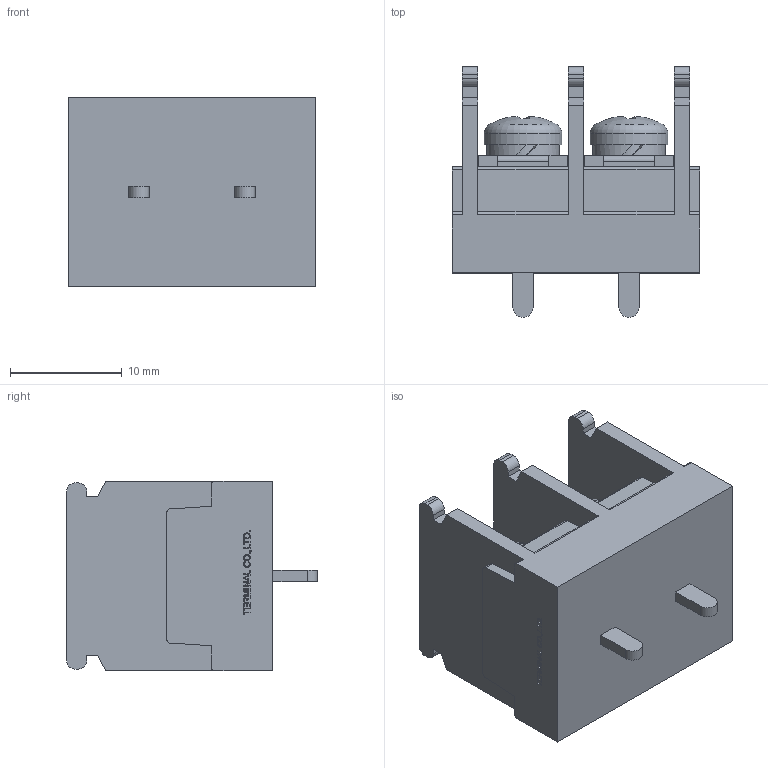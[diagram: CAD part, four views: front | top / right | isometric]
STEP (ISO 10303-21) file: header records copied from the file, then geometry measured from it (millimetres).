
FILE_DESCRIPTION(/* description */ ('Alibre Inc.'),/* implementation_level */ '2;1');
FILE_NAME(/* name */ 'export-D7C9041E-54A6-4261-8D0F-C6EE5C27060A',/* time_stamp */ '2020-11-04T18:03:57+09:00',/* author */ (''),/* organization */ (''),/* preprocessor_version */ 'ST-DEVELOPER v17',/* originating_system */ 'Alibre',/* authorisation */ '');
FILE_SCHEMA (('CONFIG_CONTROL_DESIGN'));
Length unit declared in the file: millimetre
Bounding box: 22.2 x 22.5 x 17 mm (x, y, z)
Volume: 4164.6 mm3; surface area: 3030.1 mm2
Topology: 1 solids, 19 shells, 578 faces, 1536 edges, 1022 vertices
Faces by surface type: plane 416, bspline 104, cylinder 42, cone 10, torus 4, sphere 2
Full cylindrical faces by diameter (mm): 4 x4, 6.5 x2, 7 x2
Entity records: 17339 total; most frequent: CARTESIAN_POINT 4076, ORIENTED_EDGE 3032, DIRECTION 1942, EDGE_CURVE 1516, VECTOR 1134, LINE 1134, VERTEX_POINT 1014, EDGE_LOOP 632
